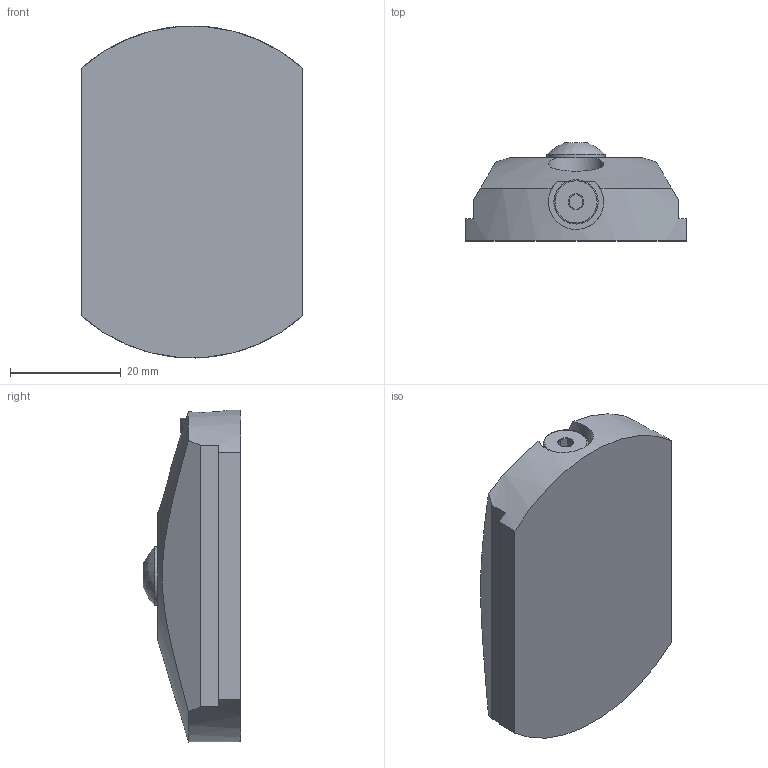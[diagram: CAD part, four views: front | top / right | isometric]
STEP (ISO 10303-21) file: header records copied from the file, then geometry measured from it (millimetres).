
FILE_DESCRIPTION (( 'STEP AP203' ), '1' );
FILE_NAME ('0032956 EZ-0075-40x60.STEP', '2025-04-22T09:41:58', ( '' ), ( '' ), 'SwSTEP 2.0', 'SolidWorks 2021', '' );
FILE_SCHEMA (( 'CONFIG_CONTROL_DESIGN' ));
Length unit declared in the file: millimetre
Products named in the file (1): 0032956 EZ-0075-40x60
Bounding box: 40 x 17.71 x 59.99 mm (x, y, z)
Volume: 26084.3 mm3; surface area: 7401 mm2
Topology: 4 solids, 4 shells, 79 faces, 173 edges, 112 vertices
Faces by surface type: plane 42, cylinder 21, cone 13, torus 1, sphere 1, bspline 1
Full cylindrical faces by diameter (mm): 2.05 x1, 2.5 x1, 4 x2, 4.2 x3, 5 x5, 7.2 x1, 8 x2, 10 x1, 10.5 x1
Entity records: 2284 total; most frequent: CARTESIAN_POINT 658, DIRECTION 326, ORIENTED_EDGE 264, AXIS2_PLACEMENT_3D 137, EDGE_CURVE 132, EDGE_LOOP 121, VERTEX_POINT 101, FACE_OUTER_BOUND 99
